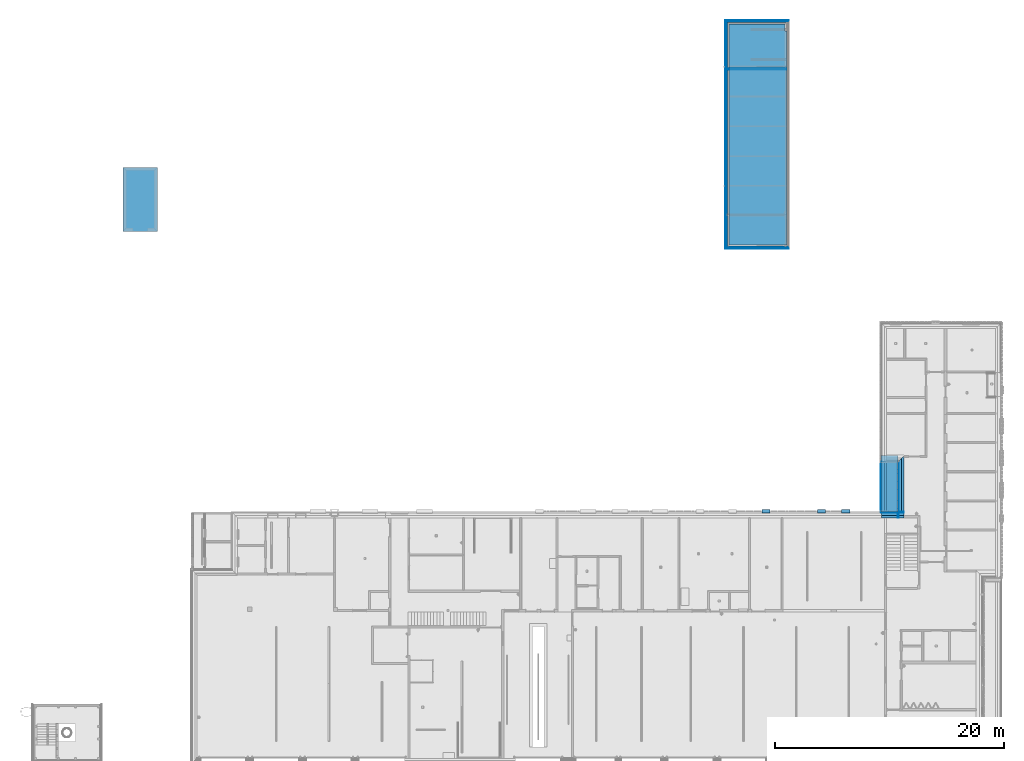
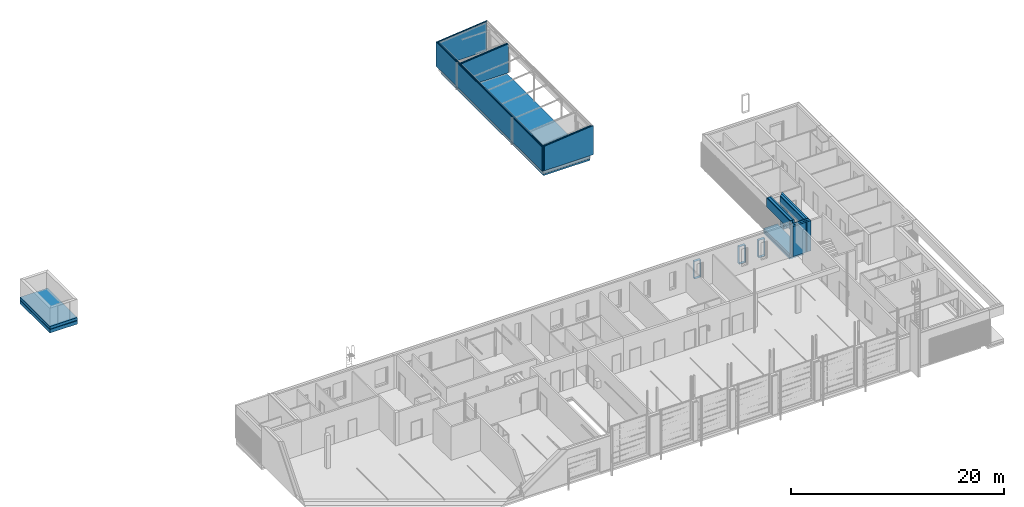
# One storey, part 33 of 112: 40 building element parts, 3 discrete accessories, 1 opening, 10 elements without a shape of their own.
"""IFC2X3 building model written with IfcOpenShell, lengths in millimetres."""

from ifc_helpers import new_model, entity, si_unit, converted_unit, derived_unit, money_unit, direction, frame, origin_with_axes, origin_2d_with_axis, place, context, subcontext, project, spatial, polyline, rectangle, outline, extrude, clip, halfspace, faceted_brep, source, transform, mapped, material, type_object, element, aggregate, save


model = new_model("IFC2X3")

# Units and contexts
model_context = context("Model", 3, precision=0.01, world=origin_with_axes(), true_north=direction((0.0, 1.0)))
body_context = subcontext(model_context, "Body", "Model", "MODEL_VIEW")
ifc_project = project(units=[si_unit("LENGTHUNIT", "METRE", prefix="MILLI"), si_unit("AREAUNIT", "SQUARE_METRE"), si_unit("VOLUMEUNIT", "CUBIC_METRE"), converted_unit("PLANEANGLEUNIT", "DEGREE", entity("IfcPlaneAngleMeasure", 0.0174532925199), si_unit("PLANEANGLEUNIT", "RADIAN"), dimensions=[0, 0, 0, 0, 0, 0, 0]), si_unit("SOLIDANGLEUNIT", "STERADIAN"), money_unit("EUR"), converted_unit("TIMEUNIT", "Year", entity("IfcTimeMeasure", 31556926.0), si_unit("TIMEUNIT", "SECOND"), dimensions=[0, 0, 1, 0, 0, 0, 0]), si_unit("MASSUNIT", "GRAM", prefix="KILO"), si_unit("THERMODYNAMICTEMPERATUREUNIT", "DEGREE_CELSIUS"), si_unit("LUMINOUSINTENSITYUNIT", "LUMEN"), si_unit("ENERGYUNIT", "JOULE", prefix="MEGA"), derived_unit("THERMALCONDUCTANCEUNIT", [(si_unit("POWERUNIT", "WATT"), 1), (si_unit("LENGTHUNIT", "METRE"), -1), (si_unit("THERMODYNAMICTEMPERATUREUNIT", "KELVIN"), -1)]), derived_unit("SPECIFICHEATCAPACITYUNIT", [(si_unit("ENERGYUNIT", "JOULE"), 1), (si_unit("MASSUNIT", "GRAM", prefix="KILO"), -1), (si_unit("THERMODYNAMICTEMPERATUREUNIT", "KELVIN"), -1)]), derived_unit("MASSDENSITYUNIT", [(si_unit("MASSUNIT", "GRAM", prefix="KILO"), 1), (si_unit("VOLUMEUNIT", "CUBIC_METRE"), -1)])], contexts=[model_context])

# Site, building, storey
site_placement = place(None, origin_with_axes())
site = spatial("IfcSite", under=ifc_project, at=site_placement, Name="Politse- ja Piirivalveameti ning Päästeameti ühishoone", CompositionType="ELEMENT")
building_placement = place(site_placement, origin_with_axes())
building = spatial("IfcBuilding", under=site, at=building_placement, Name="Politse- ja Piirivalveameti ning Päästeameti ühishoone", CompositionType="ELEMENT")
storey_placement = place(building_placement, origin_with_axes())
storey = spatial("IfcBuildingStorey", under=building, at=storey_placement, Name="Esimene korrus", CompositionType="ELEMENT", Elevation=0.0)

# Discrete accessories
ifc_material_1 = material(Name="SV-01_Krohv - Kips")
discrete_accessory_type = type_object("IfcDiscreteAccessoryType", Name="Architrave 01 23")
shared_shape = source(origin_with_axes(), body_context, "Body", "Brep", [
    faceted_brep([(350.0, 0.0, -10.0), (350.0, -300.182356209, -10.0), (-350.0, -300.182356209, -10.0), (-350.0, 0.0, -10.0), (340.0, 0.0, 0.0), (340.0, -300.182356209, 0.0), (-340.0, -300.182356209, 0.0), (-340.0, 0.0, 0.0)], [[[0, 1, 2, 3]], [[4, 5, 1, 0]], [[1, 5, 6, 2]], [[3, 2, 6, 7]], [[0, 3, 7, 4]], [[7, 6, 5, 4]]]),
    faceted_brep([(-350.0, 0.0, -10.0), (-350.0, -300.182356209, -10.0), (-350.0, -300.182356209, 1990.0), (-350.0, 0.0, 1990.0), (-340.0, 0.0, 0.0), (-340.0, -300.182356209, 0.0), (-340.0, -300.182356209, 1980.0), (-340.0, 0.0, 1980.0)], [[[0, 1, 2, 3]], [[4, 5, 1, 0]], [[1, 5, 6, 2]], [[3, 2, 6, 7]], [[0, 3, 7, 4]], [[7, 6, 5, 4]]]),
    faceted_brep([(-350.0, 0.0, 1990.0), (-350.0, -300.182356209, 1990.0), (350.0, -300.182356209, 1990.0), (350.0, 0.0, 1990.0), (-340.0, 0.0, 1980.0), (-340.0, -300.182356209, 1980.0), (340.0, -300.182356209, 1980.0), (340.0, 0.0, 1980.0)], [[[0, 1, 2, 3]], [[4, 5, 1, 0]], [[1, 5, 6, 2]], [[3, 2, 6, 7]], [[0, 3, 7, 4]], [[7, 6, 5, 4]]]),
    faceted_brep([(350.0, 0.0, 1990.0), (350.0, -300.182356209, 1990.0), (350.0, -300.182356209, -10.0), (350.0, 0.0, -10.0), (340.0, 0.0, 1980.0), (340.0, -300.182356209, 1980.0), (340.0, -300.182356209, 0.0), (340.0, 0.0, 0.0)], [[[0, 1, 2, 3]], [[4, 5, 1, 0]], [[1, 5, 6, 2]], [[3, 2, 6, 7]], [[0, 3, 7, 4]], [[7, 6, 5, 4]]]),
])
for number, where, z_axis, x_axis, name in (
    (1, (56584.544884, 21429.9520832, 810.0), (0.0, 0.0, 1.0), (-1.0, 0.0, 0.0), "AKNARAAM 01"),
    (2, (54484.544884, 21429.9520832, 810.0), (0.0, 0.0, 1.0), (-1.0, 0.0, 0.0), "AKNARAAM 01"),
    (3, (49633.8537217, 21429.9520832, 810.0), (0.0, 0.0, 1.0), (-1.0, 0.0, 0.0), "AKNARAAM 01"),
):
    element("IfcDiscreteAccessory", number, at=place(storey_placement, frame(where, z_axis=z_axis, x_axis=x_axis)), inside=storey, type_object=discrete_accessory_type, material=ifc_material_1, Name=name, context=body_context, shape_type="MappedRepresentation", body=[
        mapped(shared_shape, transform((0.0, 0.0, 0.0))),
    ])

# Wall, opening, building element parts
wall_type_1 = type_object("IfcWallType", Name="VS-04_välissein paneel200 + fassaadikassett 520", PredefinedType="NOTDEFINED")
wall_1_placement = place(storey_placement, frame((61660.5519118, 26419.9520832, 0.0), z_axis=(0.0, 0.0, 1.0), x_axis=(0.0, -1.0, 0.0)))
wall_1 = element("IfcWall", 4, at=wall_1_placement, inside=storey, type_object=wall_type_1, Name="VS-04")
opening_placement = place(wall_1_placement, frame((2720.16441569, 0.0, 0.0), z_axis=(0.0, 0.0, 1.0), x_axis=(1.0, 0.0, 0.0)))
element("IfcOpeningElement", 5, at=opening_placement, cuts=wall_1, Name="VU-03", context=body_context, shape_type="SweptSolid", body=[
    extrude(rectangle(XDim=3200.0, YDim=2600.0, at=origin_2d_with_axis()), frame((0.0, -450.0, 1300.0), z_axis=(0.0, -1.0, 0.0), x_axis=(-1.0, 0.0, 0.0)), (0.0, 0.0, -1.0), 970.0),
    extrude(rectangle(XDim=3200.0, YDim=2600.0, at=origin_2d_with_axis()), frame((0.0, -450.0, 1300.0), z_axis=(0.0, 1.0, 0.0), x_axis=(-1.0, 0.0, 0.0)), (0.0, 0.0, -1.0), 590.0),
    extrude(rectangle(XDim=3274.0, YDim=2637.0, at=origin_2d_with_axis()), frame((0.0, 0.0, 1318.5), z_axis=(0.0, -1.0, 0.0), x_axis=(-1.0, 0.0, 0.0)), (0.0, 0.0, -1.0), 590.0),
    extrude(rectangle(XDim=3274.0, YDim=2637.0, at=origin_2d_with_axis()), frame((0.0, -520.0, 1318.5), z_axis=(0.0, 1.0, 0.0), x_axis=(-1.0, 0.0, 0.0)), (0.0, 0.0, -1.0), 590.0),
])
ifc_material_2 = material(Name="KON-04_Betoon - Konstuktsioon")
building_element_part_1_placement = place(wall_1_placement, origin_with_axes())
building_element_part_1 = element("IfcBuildingElementPart", 6, at=building_element_part_1_placement, material=ifc_material_2, Name="KON-04_Betoon - Konstuktsioon", context=body_context, shape_type="SweptSolid", body=[
    extrude(outline(polyline([(200.0, -200.0), (5420.0, -200.0), (5420.0, 0.0), (0.0, 0.0), (200.0, -200.0)])), origin_with_axes(), (0.0, 0.0, 1.0), 3460.0),
])
ifc_material_3 = material(Name="SOJ-06_Soojustus - Plastik Kõva")
building_element_part_2_placement = place(wall_1_placement, origin_with_axes())
building_element_part_2 = element("IfcBuildingElementPart", 7, at=building_element_part_2_placement, material=ifc_material_3, Name="SOJ-06_Soojustus - Plastik Kõva", context=body_context, shape_type="SweptSolid", body=[
    extrude(outline(polyline([(450.0, -450.0), (5420.0, -450.0), (5420.0, -200.0), (200.0, -200.0), (450.0, -450.0)])), origin_with_axes(), (0.0, 0.0, 1.0), 3460.0),
])
ifc_material_4 = material(Name="Õhkvahe - Raam")
building_element_part_3_placement = place(wall_1_placement, origin_with_axes())
building_element_part_3 = element("IfcBuildingElementPart", 8, at=building_element_part_3_placement, material=ifc_material_4, Name="Õhkvahe - Raam", context=body_context, shape_type="SweptSolid", body=[
    extrude(outline(polyline([(480.0, -480.0), (5420.0, -480.0), (5420.0, -450.0), (450.0, -450.0), (480.0, -480.0)])), origin_with_axes(), (0.0, 0.0, 1.0), 3460.0),
])
ifc_material_5 = material(Name="GENEERILINE - VÄLINE VOODER")
building_element_part_4_placement = place(wall_1_placement, origin_with_axes())
building_element_part_4 = element("IfcBuildingElementPart", 9, at=building_element_part_4_placement, material=ifc_material_5, Name="GENEERILINE - VÄLINE VOODER", context=body_context, shape_type="SweptSolid", body=[
    extrude(outline(polyline([(520.0, -520.0), (5420.0, -520.0), (5420.0, -480.0), (480.0, -480.0), (520.0, -520.0)])), origin_with_axes(), (0.0, 0.0, 1.0), 3460.0),
])
aggregate(wall_1, [building_element_part_1, building_element_part_2, building_element_part_3, building_element_part_4])

# Slab, building element parts
slab_type_1 = type_object("IfcSlabType", Name="PP-06_sissepääsu esine terrass 600", PredefinedType="NOTDEFINED")
slab_1_placement = place(storey_placement, frame((59650.5519118, 21519.9520832, 0.0), z_axis=(0.0, 0.0, 1.0), x_axis=(1.0, 0.0, 0.0)))
slab_1 = element("IfcSlab", 10, at=slab_1_placement, inside=storey, type_object=slab_type_1, Name="PP-06", PredefinedType="NOTDEFINED")
ifc_material_6 = material(Name="VKK-03_Kruus")
building_element_part_5_placement = place(slab_1_placement, origin_with_axes())
building_element_part_5 = element("IfcBuildingElementPart", 11, at=building_element_part_5_placement, material=ifc_material_6, Name="VKK-03_Kruus", context=body_context, shape_type="SweptSolid", body=[
    extrude(outline(polyline([(0.0, 0.0), (1490.0, 0.0), (1490.0, 4900.0), (0.0, 4900.0), (0.0, 0.0)])), frame((0.0, 0.0, -600.0), z_axis=(0.0, 0.0, 1.0), x_axis=(1.0, 0.0, 0.0)), (0.0, 0.0, 1.0), 200.0),
])
ifc_material_7 = material(Name="SOJ-02_Soojustus - Fiiber Kõva")
building_element_part_6_placement = place(slab_1_placement, origin_with_axes())
building_element_part_6 = element("IfcBuildingElementPart", 12, at=building_element_part_6_placement, material=ifc_material_7, Name="SOJ-02_Soojustus - Fiiber Kõva", context=body_context, shape_type="SweptSolid", body=[
    extrude(outline(polyline([(0.0, 0.0), (1490.0, 0.0), (1490.0, 4900.0), (0.0, 4900.0), (0.0, 0.0)])), frame((0.0, 0.0, -400.0), z_axis=(0.0, 0.0, 1.0), x_axis=(1.0, 0.0, 0.0)), (0.0, 0.0, 1.0), 150.0),
])
ifc_material_8 = material(Name="VKR-01_Betoon")
building_element_part_7_placement = place(slab_1_placement, origin_with_axes())
building_element_part_7 = element("IfcBuildingElementPart", 13, at=building_element_part_7_placement, material=ifc_material_8, Name="VKR-01_Betoon", context=body_context, shape_type="SweptSolid", body=[
    extrude(outline(polyline([(0.0, 0.0), (1490.0, 0.0), (1490.0, 4900.0), (0.0, 4900.0), (0.0, 0.0)])), frame((0.0, 0.0, -250.0), z_axis=(0.0, 0.0, 1.0), x_axis=(1.0, 0.0, 0.0)), (0.0, 0.0, 1.0), 250.0),
])
aggregate(slab_1, [building_element_part_5, building_element_part_6, building_element_part_7])

# Wall, building element parts
wall_type_2 = type_object("IfcWallType", Name="VS-01_välissein 510", PredefinedType="NOTDEFINED")
wall_2_placement = place(storey_placement, frame((60160.5519118, 25899.9520832, 2800.0), z_axis=(0.0, 0.0, 1.0), x_axis=(0.0, -1.0, 0.0)))
wall_2 = element("IfcWall", 14, at=wall_2_placement, inside=storey, type_object=wall_type_2, Name="VS-01")
building_element_part_8_placement = place(wall_2_placement, origin_with_axes())
building_element_part_8 = element("IfcBuildingElementPart", 15, at=building_element_part_8_placement, material=ifc_material_2, Name="KON-04_Betoon - Konstuktsioon", context=body_context, shape_type="SweptSolid", body=[
    extrude(outline(polyline([(0.0, -180.0), (4380.0, -180.0), (4380.0, 0.0), (0.0, 0.0), (0.0, -180.0)])), origin_with_axes(), (0.0, 0.0, 1.0), 1000.0),
])
building_element_part_9_placement = place(wall_2_placement, origin_with_axes())
building_element_part_9 = element("IfcBuildingElementPart", 16, at=building_element_part_9_placement, material=ifc_material_3, Name="SOJ-06_Soojustus - Plastik Kõva", context=body_context, shape_type="SweptSolid", body=[
    extrude(outline(polyline([(0.0, -430.0), (4380.0, -430.0), (4380.0, -180.0), (0.0, -180.0), (0.0, -430.0)])), origin_with_axes(), (0.0, 0.0, 1.0), 1000.0),
])
building_element_part_10_placement = place(wall_2_placement, origin_with_axes())
building_element_part_10 = element("IfcBuildingElementPart", 17, at=building_element_part_10_placement, material=ifc_material_2, Name="KON-04_Betoon - Konstuktsioon", context=body_context, shape_type="SweptSolid", body=[
    extrude(outline(polyline([(0.0, -510.0), (4380.0, -510.0), (4380.0, -430.0), (0.0, -430.0), (0.0, -510.0)])), origin_with_axes(), (0.0, 0.0, 1.0), 1000.0),
])
aggregate(wall_2, [building_element_part_8, building_element_part_9, building_element_part_10])

wall_3_placement = place(storey_placement, frame((59700.5519118, 20999.9520832, 0.0), z_axis=(0.0, 0.0, 1.0), x_axis=(1.0, 0.0, 0.0)))
wall_3 = element("IfcWall", 18, at=wall_3_placement, inside=storey, type_object=wall_type_1, Name="VS-04")
building_element_part_11_placement = place(wall_3_placement, origin_with_axes())
building_element_part_11 = element("IfcBuildingElementPart", 19, at=building_element_part_11_placement, material=ifc_material_2, Name="KON-04_Betoon - Konstuktsioon", context=body_context, shape_type="SweptSolid", body=[
    extrude(outline(polyline([(0.0, 0.0), (1960.0, 0.0), (1960.0, 200.0), (0.0, 200.0), (0.0, 0.0)])), origin_with_axes(), (0.0, 0.0, 1.0), 3460.0),
])
building_element_part_12_placement = place(wall_3_placement, origin_with_axes())
building_element_part_12 = element("IfcBuildingElementPart", 20, at=building_element_part_12_placement, material=ifc_material_3, Name="SOJ-06_Soojustus - Plastik Kõva", context=body_context, shape_type="SweptSolid", body=[
    extrude(outline(polyline([(0.0, 200.0), (1960.0, 200.0), (1960.0, 450.0), (0.0, 450.0), (0.0, 200.0)])), origin_with_axes(), (0.0, 0.0, 1.0), 3460.0),
])
building_element_part_13_placement = place(wall_3_placement, origin_with_axes())
building_element_part_13 = element("IfcBuildingElementPart", 21, at=building_element_part_13_placement, material=ifc_material_4, Name="Õhkvahe - Raam", context=body_context, shape_type="SweptSolid", body=[
    extrude(outline(polyline([(0.0, 450.0), (1960.0, 450.0), (1960.0, 480.0), (0.0, 480.0), (0.0, 450.0)])), origin_with_axes(), (0.0, 0.0, 1.0), 3460.0),
])
building_element_part_14_placement = place(wall_3_placement, origin_with_axes())
building_element_part_14 = element("IfcBuildingElementPart", 22, at=building_element_part_14_placement, material=ifc_material_5, Name="GENEERILINE - VÄLINE VOODER", context=body_context, shape_type="SweptSolid", body=[
    extrude(outline(polyline([(0.0, 480.0), (1960.0, 480.0), (1960.0, 520.0), (0.0, 520.0), (0.0, 480.0)])), origin_with_axes(), (0.0, 0.0, 1.0), 3460.0),
])
aggregate(wall_3, [building_element_part_11, building_element_part_12, building_element_part_13, building_element_part_14])

wall_type_3 = type_object("IfcWallType", Name="VS-41_Välissein PPA varjualune 225", PredefinedType="NOTDEFINED")
wall_4_placement = place(storey_placement, frame((46291.8237405, 44474.8510263, 300.0), z_axis=(0.0, 0.0, 1.0), x_axis=(0.0, 1.0, 0.0)))
wall_4 = element("IfcWall", 23, at=wall_4_placement, inside=storey, type_object=wall_type_3, Name="VS-41")
ifc_material_9 = material(Name="Õhkvahe")
building_element_part_15_placement = place(wall_4_placement, origin_with_axes())
building_element_part_15 = element("IfcBuildingElementPart", 24, at=building_element_part_15_placement, material=ifc_material_9, Name="Õhkvahe", context=body_context, shape_type="Clipping", body=[
    clip(extrude(outline(polyline([(0.0, 0.0), (19725.0, 0.0), (19825.0, 100.0), (0.0, 100.0), (0.0, 0.0)])), origin_with_axes(), (0.0, 0.0, 1.0), 2892.55172062), halfspace(frame((0.0, 277.161360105, 2776.79873199), z_axis=(0.0, -0.0993197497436, -0.995055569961), x_axis=(0.0, 0.995055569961, -0.0993197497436)), True)),
])
ifc_material_10 = material(Name="Vineer")
building_element_part_16_placement = place(wall_4_placement, origin_with_axes())
building_element_part_16 = element("IfcBuildingElementPart", 25, at=building_element_part_16_placement, material=ifc_material_10, Name="Vineer", context=body_context, shape_type="Clipping", body=[
    clip(extrude(outline(polyline([(0.0, 100.0), (19825.0, 100.0), (19840.0, 115.0), (0.0, 115.0), (0.0, 100.0)])), origin_with_axes(), (0.0, 0.0, 1.0), 2892.55172062), halfspace(frame((0.0, 277.161360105, 2776.79873199), z_axis=(0.0, -0.0993197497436, -0.995055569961), x_axis=(0.0, 0.995055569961, -0.0993197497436)), True)),
])
building_element_part_17_placement = place(wall_4_placement, origin_with_axes())
building_element_part_17 = element("IfcBuildingElementPart", 26, at=building_element_part_17_placement, material=ifc_material_9, Name="Õhkvahe", context=body_context, shape_type="Clipping", body=[
    clip(extrude(outline(polyline([(0.0, 115.0), (19840.0, 115.0), (19855.0, 130.0), (0.0, 130.0), (0.0, 115.0)])), origin_with_axes(), (0.0, 0.0, 1.0), 2892.55172062), halfspace(frame((0.0, 277.161360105, 2776.79873199), z_axis=(0.0, -0.0993197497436, -0.995055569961), x_axis=(0.0, 0.995055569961, -0.0993197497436)), True)),
])
building_element_part_18_placement = place(wall_4_placement, origin_with_axes())
building_element_part_18 = element("IfcBuildingElementPart", 27, at=building_element_part_18_placement, material=ifc_material_9, Name="Õhkvahe", context=body_context, shape_type="Clipping", body=[
    clip(extrude(outline(polyline([(0.0, 130.0), (19855.0, 130.0), (19905.0, 180.0), (0.0, 180.0), (0.0, 130.0)])), origin_with_axes(), (0.0, 0.0, 1.0), 2892.55172062), halfspace(frame((0.0, 277.161360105, 2776.79873199), z_axis=(0.0, -0.0993197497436, -0.995055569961), x_axis=(0.0, 0.995055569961, -0.0993197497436)), True)),
])
building_element_part_19_placement = place(wall_4_placement, origin_with_axes())
building_element_part_19 = element("IfcBuildingElementPart", 28, at=building_element_part_19_placement, material=ifc_material_5, Name="GENEERILINE - VÄLINE VOODER", context=body_context, shape_type="Clipping", body=[
    clip(extrude(outline(polyline([(0.0, 180.0), (19905.0, 180.0), (19950.0, 225.0), (0.0, 225.0), (0.0, 180.0)])), origin_with_axes(), (0.0, 0.0, 1.0), 2892.55172062), halfspace(frame((0.0, 277.161360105, 2776.79873199), z_axis=(0.0, -0.0993197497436, -0.995055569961), x_axis=(0.0, 0.995055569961, -0.0993197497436)), True)),
])
aggregate(wall_4, [building_element_part_15, building_element_part_16, building_element_part_17, building_element_part_18, building_element_part_19])

# Slab, building element parts
slab_type_2 = type_object("IfcSlabType", Name="PP-30_Garaazi põrand pinnasel 500", PredefinedType="NOTDEFINED")
slab_2_placement = place(storey_placement, frame((46397.4298587, 64092.8324949, 0.0), z_axis=(0.0, 0.0, 1.0), x_axis=(1.0, 0.0, 0.0)))
slab_2 = element("IfcSlab", 29, at=slab_2_placement, inside=storey, type_object=slab_type_2, Name="PP-41", PredefinedType="NOTDEFINED")
building_element_part_20_placement = place(slab_2_placement, origin_with_axes())
building_element_part_20 = element("IfcBuildingElementPart", 30, at=building_element_part_20_placement, material=ifc_material_6, Name="VKK-03_Kruus", context=body_context, shape_type="SweptSolid", body=[
    extrude(outline(polyline([(0.0, 0.0), (4.3938818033, -19282.9814686), (5044.3938818, -19282.9814621), (5044.3938818, -642.981474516), (4884.3938818, -642.981474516), (4884.39364011, -0.0126705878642), (0.0, 0.0)])), frame((0.0, 0.0, -500.0), z_axis=(0.0, 0.0, 1.0), x_axis=(1.0, 0.0, 0.0)), (0.0, 0.0, 1.0), 200.0),
])
building_element_part_21_placement = place(slab_2_placement, origin_with_axes())
building_element_part_21 = element("IfcBuildingElementPart", 31, at=building_element_part_21_placement, material=ifc_material_7, Name="SOJ-02_Soojustus - Fiiber Kõva", context=body_context, shape_type="SweptSolid", body=[
    extrude(outline(polyline([(0.0, 0.0), (4.3938818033, -19282.9814686), (5044.3938818, -19282.9814621), (5044.3938818, -642.981474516), (4884.3938818, -642.981474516), (4884.39364011, -0.0126705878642), (0.0, 0.0)])), frame((0.0, 0.0, -300.0), z_axis=(0.0, 0.0, 1.0), x_axis=(1.0, 0.0, 0.0)), (0.0, 0.0, 1.0), 100.0),
])
ifc_material_11 = material(Name="ET-02_Raudbetoon - Toode")
building_element_part_22_placement = place(slab_2_placement, origin_with_axes())
building_element_part_22 = element("IfcBuildingElementPart", 32, at=building_element_part_22_placement, material=ifc_material_11, Name="ET-02_Raudbetoon - Toode", context=body_context, shape_type="SweptSolid", body=[
    extrude(outline(polyline([(0.0, 0.0), (4.3938818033, -19282.9814686), (5044.3938818, -19282.9814621), (5044.3938818, -642.981474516), (4884.3938818, -642.981474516), (4884.39364011, -0.0126705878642), (0.0, 0.0)])), frame((0.0, 0.0, -200.0), z_axis=(0.0, 0.0, 1.0), x_axis=(1.0, 0.0, 0.0)), (0.0, 0.0, 1.0), 200.0),
])
aggregate(slab_2, [building_element_part_20, building_element_part_21, building_element_part_22])

# Wall, building element parts
wall_5_placement = place(storey_placement, frame((51391.8237405, 64199.8510263, 300.0), z_axis=(0.0, 0.0, 1.0), x_axis=(-1.0, 0.0, 0.0)))
wall_5 = element("IfcWall", 33, at=wall_5_placement, inside=storey, type_object=wall_type_3, Name="VS-41")
building_element_part_23_placement = place(wall_5_placement, origin_with_axes())
building_element_part_23 = element("IfcBuildingElementPart", 34, at=building_element_part_23_placement, material=ifc_material_9, Name="Õhkvahe", context=body_context, shape_type="Clipping", body=[
    clip(clip(extrude(outline(polyline([(-100.0, -100.0), (5200.0, -100.0), (5100.0, 0.0), (0.0, 0.0), (-100.0, -100.0)])), origin_with_axes(), (0.0, 0.0, 1.0), 3500.0), halfspace(frame((327.469865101, 0.0, 3280.82495279), z_axis=(-0.0993197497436, 0.0, -0.995055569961), x_axis=(0.0, 1.0, 0.0)), True)), halfspace(frame((702.013061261, 0.0, 7033.26386339), z_axis=(-0.0993197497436, 0.0, -0.995055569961), x_axis=(0.0, 1.0, 0.0)), True)),
])
building_element_part_24_placement = place(wall_5_placement, origin_with_axes())
building_element_part_24 = element("IfcBuildingElementPart", 35, at=building_element_part_24_placement, material=ifc_material_10, Name="Vineer", context=body_context, shape_type="Clipping", body=[
    clip(clip(extrude(outline(polyline([(-115.0, -115.0), (5215.0, -115.0), (5200.0, -100.0), (-100.0, -100.0), (-115.0, -115.0)])), origin_with_axes(), (0.0, 0.0, 1.0), 3500.0), halfspace(frame((327.469865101, 0.0, 3280.82495279), z_axis=(-0.0993197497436, 0.0, -0.995055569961), x_axis=(0.0, 1.0, 0.0)), True)), halfspace(frame((702.013061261, 0.0, 7033.26386339), z_axis=(-0.0993197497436, 0.0, -0.995055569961), x_axis=(0.0, 1.0, 0.0)), True)),
])
building_element_part_25_placement = place(wall_5_placement, origin_with_axes())
building_element_part_25 = element("IfcBuildingElementPart", 36, at=building_element_part_25_placement, material=ifc_material_9, Name="Õhkvahe", context=body_context, shape_type="Clipping", body=[
    clip(clip(extrude(outline(polyline([(-130.0, -130.0), (5230.0, -130.0), (5215.0, -115.0), (-115.0, -115.0), (-130.0, -130.0)])), origin_with_axes(), (0.0, 0.0, 1.0), 3500.0), halfspace(frame((327.469865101, 0.0, 3280.82495279), z_axis=(-0.0993197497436, 0.0, -0.995055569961), x_axis=(0.0, 1.0, 0.0)), True)), halfspace(frame((702.013061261, 0.0, 7033.26386339), z_axis=(-0.0993197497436, 0.0, -0.995055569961), x_axis=(0.0, 1.0, 0.0)), True)),
])
building_element_part_26_placement = place(wall_5_placement, origin_with_axes())
building_element_part_26 = element("IfcBuildingElementPart", 37, at=building_element_part_26_placement, material=ifc_material_9, Name="Õhkvahe", context=body_context, shape_type="Clipping", body=[
    clip(clip(extrude(outline(polyline([(-180.0, -180.0), (5280.0, -180.0), (5230.0, -130.0), (-130.0, -130.0), (-180.0, -180.0)])), origin_with_axes(), (0.0, 0.0, 1.0), 3500.0), halfspace(frame((327.469865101, 0.0, 3280.82495279), z_axis=(-0.0993197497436, 0.0, -0.995055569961), x_axis=(0.0, 1.0, 0.0)), True)), halfspace(frame((702.013061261, 0.0, 7033.26386339), z_axis=(-0.0993197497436, 0.0, -0.995055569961), x_axis=(0.0, 1.0, 0.0)), True)),
])
building_element_part_27_placement = place(wall_5_placement, origin_with_axes())
building_element_part_27 = element("IfcBuildingElementPart", 38, at=building_element_part_27_placement, material=ifc_material_5, Name="GENEERILINE - VÄLINE VOODER", context=body_context, shape_type="Clipping", body=[
    clip(clip(extrude(outline(polyline([(-225.0, -225.0), (5325.0, -225.0), (5280.0, -180.0), (-180.0, -180.0), (-225.0, -225.0)])), origin_with_axes(), (0.0, 0.0, 1.0), 3500.0), halfspace(frame((327.469865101, 0.0, 3280.82495279), z_axis=(-0.0993197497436, 0.0, -0.995055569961), x_axis=(0.0, 1.0, 0.0)), True)), halfspace(frame((702.013061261, 0.0, 7033.26386339), z_axis=(-0.0993197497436, 0.0, -0.995055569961), x_axis=(0.0, 1.0, 0.0)), True)),
])
aggregate(wall_5, [building_element_part_23, building_element_part_24, building_element_part_25, building_element_part_26, building_element_part_27])

wall_6_placement = place(storey_placement, frame((51391.8237405, 44699.8510263, 300.0), z_axis=(0.0, 0.0, 1.0), x_axis=(-1.0, 0.0, 0.0)))
wall_6 = element("IfcWall", 39, at=wall_6_placement, inside=storey, type_object=wall_type_3, Name="VS-41")
building_element_part_28_placement = place(wall_6_placement, origin_with_axes())
building_element_part_28 = element("IfcBuildingElementPart", 40, at=building_element_part_28_placement, material=ifc_material_9, Name="Õhkvahe", context=body_context, shape_type="Clipping", body=[
    clip(clip(extrude(outline(polyline([(0.0, 0.0), (5100.0, 0.0), (5100.0, 100.0), (-100.0, 100.0), (0.0, 0.0)])), origin_with_axes(), (0.0, 0.0, 1.0), 13500.0), halfspace(frame((327.469865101, 0.0, 3280.82495279), z_axis=(-0.0993197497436, 0.0, -0.995055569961), x_axis=(0.0, 1.0, 0.0)), True)), halfspace(frame((702.013061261, 0.0, 7033.26386339), z_axis=(-0.0993197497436, 0.0, -0.995055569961), x_axis=(0.0, 1.0, 0.0)), True)),
])
building_element_part_29_placement = place(wall_6_placement, origin_with_axes())
building_element_part_29 = element("IfcBuildingElementPart", 41, at=building_element_part_29_placement, material=ifc_material_10, Name="Vineer", context=body_context, shape_type="Clipping", body=[
    clip(clip(extrude(outline(polyline([(-100.0, 100.0), (5100.0, 100.0), (5100.0, 115.0), (-115.0, 115.0), (-100.0, 100.0)])), origin_with_axes(), (0.0, 0.0, 1.0), 13500.0), halfspace(frame((327.469865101, 0.0, 3280.82495279), z_axis=(-0.0993197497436, 0.0, -0.995055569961), x_axis=(0.0, 1.0, 0.0)), True)), halfspace(frame((702.013061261, 0.0, 7033.26386339), z_axis=(-0.0993197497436, 0.0, -0.995055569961), x_axis=(0.0, 1.0, 0.0)), True)),
])
building_element_part_30_placement = place(wall_6_placement, origin_with_axes())
building_element_part_30 = element("IfcBuildingElementPart", 42, at=building_element_part_30_placement, material=ifc_material_9, Name="Õhkvahe", context=body_context, shape_type="Clipping", body=[
    clip(clip(extrude(outline(polyline([(-115.0, 115.0), (5100.0, 115.0), (5100.0, 130.0), (-130.0, 130.0), (-115.0, 115.0)])), origin_with_axes(), (0.0, 0.0, 1.0), 13500.0), halfspace(frame((327.469865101, 0.0, 3280.82495279), z_axis=(-0.0993197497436, 0.0, -0.995055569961), x_axis=(0.0, 1.0, 0.0)), True)), halfspace(frame((702.013061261, 0.0, 7033.26386339), z_axis=(-0.0993197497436, 0.0, -0.995055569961), x_axis=(0.0, 1.0, 0.0)), True)),
])
building_element_part_31_placement = place(wall_6_placement, origin_with_axes())
building_element_part_31 = element("IfcBuildingElementPart", 43, at=building_element_part_31_placement, material=ifc_material_9, Name="Õhkvahe", context=body_context, shape_type="Clipping", body=[
    clip(clip(extrude(outline(polyline([(-130.0, 130.0), (5100.0, 130.0), (5100.0, 180.0), (-180.0, 180.0), (-130.0, 130.0)])), origin_with_axes(), (0.0, 0.0, 1.0), 13500.0), halfspace(frame((327.469865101, 0.0, 3280.82495279), z_axis=(-0.0993197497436, 0.0, -0.995055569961), x_axis=(0.0, 1.0, 0.0)), True)), halfspace(frame((702.013061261, 0.0, 7033.26386339), z_axis=(-0.0993197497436, 0.0, -0.995055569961), x_axis=(0.0, 1.0, 0.0)), True)),
])
building_element_part_32_placement = place(wall_6_placement, origin_with_axes())
building_element_part_32 = element("IfcBuildingElementPart", 44, at=building_element_part_32_placement, material=ifc_material_5, Name="GENEERILINE - VÄLINE VOODER", context=body_context, shape_type="Clipping", body=[
    clip(clip(extrude(outline(polyline([(-180.0, 180.0), (5100.0, 180.0), (5100.0, 225.0), (-225.0, 225.0), (-180.0, 180.0)])), origin_with_axes(), (0.0, 0.0, 1.0), 13500.0), halfspace(frame((327.469865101, 0.0, 3280.82495279), z_axis=(-0.0993197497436, 0.0, -0.995055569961), x_axis=(0.0, 1.0, 0.0)), True)), halfspace(frame((702.013061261, 0.0, 7033.26386339), z_axis=(-0.0993197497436, 0.0, -0.995055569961), x_axis=(0.0, 1.0, 0.0)), True)),
])
aggregate(wall_6, [building_element_part_28, building_element_part_29, building_element_part_30, building_element_part_31, building_element_part_32])

wall_7_placement = place(storey_placement, frame((51391.8237405, 60299.851074, 300.0), z_axis=(0.0, 0.0, 1.0), x_axis=(-1.0, 0.0, 0.0)))
wall_7 = element("IfcWall", 45, at=wall_7_placement, inside=storey, type_object=wall_type_3, Name="VS-41")
building_element_part_33_placement = place(wall_7_placement, origin_with_axes())
building_element_part_33 = element("IfcBuildingElementPart", 46, at=building_element_part_33_placement, material=ifc_material_9, Name="Õhkvahe", context=body_context, shape_type="Clipping", body=[
    clip(clip(extrude(outline(polyline([(-1.70530256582e-10, 0.0), (5100.0, 0.0), (5100.0, 100.0), (-1.70530256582e-10, 100.0), (-1.70530256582e-10, 0.0)])), origin_with_axes(), (0.0, 0.0, 1.0), 3500.0), halfspace(frame((327.469865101, 0.0, 3280.82495279), z_axis=(-0.0993197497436, 0.0, -0.995055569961), x_axis=(0.0, 1.0, 0.0)), True)), halfspace(frame((702.013061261, 0.0, 7033.26386339), z_axis=(-0.0993197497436, 0.0, -0.995055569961), x_axis=(0.0, 1.0, 0.0)), True)),
])
building_element_part_34_placement = place(wall_7_placement, origin_with_axes())
building_element_part_34 = element("IfcBuildingElementPart", 47, at=building_element_part_34_placement, material=ifc_material_10, Name="Vineer", context=body_context, shape_type="Clipping", body=[
    clip(clip(extrude(outline(polyline([(-1.70530256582e-10, 100.0), (5100.0, 100.0), (5100.0, 115.0), (-1.70530256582e-10, 115.0), (-1.70530256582e-10, 100.0)])), origin_with_axes(), (0.0, 0.0, 1.0), 3500.0), halfspace(frame((327.469865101, 0.0, 3280.82495279), z_axis=(-0.0993197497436, 0.0, -0.995055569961), x_axis=(0.0, 1.0, 0.0)), True)), halfspace(frame((702.013061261, 0.0, 7033.26386339), z_axis=(-0.0993197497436, 0.0, -0.995055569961), x_axis=(0.0, 1.0, 0.0)), True)),
])
building_element_part_35_placement = place(wall_7_placement, origin_with_axes())
building_element_part_35 = element("IfcBuildingElementPart", 48, at=building_element_part_35_placement, material=ifc_material_9, Name="Õhkvahe", context=body_context, shape_type="Clipping", body=[
    clip(clip(extrude(outline(polyline([(-1.70530256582e-10, 115.0), (5100.0, 115.0), (5100.0, 130.0), (-1.70530256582e-10, 130.0), (-1.70530256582e-10, 115.0)])), origin_with_axes(), (0.0, 0.0, 1.0), 3500.0), halfspace(frame((327.469865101, 0.0, 3280.82495279), z_axis=(-0.0993197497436, 0.0, -0.995055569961), x_axis=(0.0, 1.0, 0.0)), True)), halfspace(frame((702.013061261, 0.0, 7033.26386339), z_axis=(-0.0993197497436, 0.0, -0.995055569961), x_axis=(0.0, 1.0, 0.0)), True)),
])
building_element_part_36_placement = place(wall_7_placement, origin_with_axes())
building_element_part_36 = element("IfcBuildingElementPart", 49, at=building_element_part_36_placement, material=ifc_material_9, Name="Õhkvahe", context=body_context, shape_type="Clipping", body=[
    clip(clip(extrude(outline(polyline([(-1.70530256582e-10, 130.0), (5100.0, 130.0), (5100.0, 180.0), (-1.70530256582e-10, 180.0), (-1.70530256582e-10, 130.0)])), origin_with_axes(), (0.0, 0.0, 1.0), 3500.0), halfspace(frame((327.469865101, 0.0, 3280.82495279), z_axis=(-0.0993197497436, 0.0, -0.995055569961), x_axis=(0.0, 1.0, 0.0)), True)), halfspace(frame((702.013061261, 0.0, 7033.26386339), z_axis=(-0.0993197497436, 0.0, -0.995055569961), x_axis=(0.0, 1.0, 0.0)), True)),
])
building_element_part_37_placement = place(wall_7_placement, origin_with_axes())
building_element_part_37 = element("IfcBuildingElementPart", 50, at=building_element_part_37_placement, material=ifc_material_5, Name="GENEERILINE - VÄLINE VOODER", context=body_context, shape_type="Clipping", body=[
    clip(clip(extrude(outline(polyline([(-1.70530256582e-10, 180.0), (5100.0, 180.0), (5100.0, 225.0), (-1.70530256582e-10, 225.0), (-1.70530256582e-10, 180.0)])), origin_with_axes(), (0.0, 0.0, 1.0), 3500.0), halfspace(frame((327.469865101, 0.0, 3280.82495279), z_axis=(-0.0993197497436, 0.0, -0.995055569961), x_axis=(0.0, 1.0, 0.0)), True)), halfspace(frame((702.013061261, 0.0, 7033.26386339), z_axis=(-0.0993197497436, 0.0, -0.995055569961), x_axis=(0.0, 1.0, 0.0)), True)),
])
aggregate(wall_7, [building_element_part_33, building_element_part_34, building_element_part_35, building_element_part_36, building_element_part_37])

# Slab, building element parts
slab_type_3 = type_object("IfcSlabType", Name="PP-60_Põrand pinnasel lõhkeainehoidla 750", PredefinedType="NOTDEFINED")
slab_3_placement = place(storey_placement, frame((-6464.49139249, 45978.0648668, 0.0), z_axis=(0.0, 0.0, 1.0), x_axis=(1.0, 0.0, 0.0)))
slab_3 = element("IfcSlab", 51, at=slab_3_placement, inside=storey, type_object=slab_type_3, Name="PP-60", PredefinedType="NOTDEFINED")
building_element_part_38_placement = place(slab_3_placement, origin_with_axes())
building_element_part_38 = element("IfcBuildingElementPart", 52, at=building_element_part_38_placement, material=ifc_material_6, Name="VKK-03_Kruus", context=body_context, shape_type="SweptSolid", body=[
    extrude(outline(polyline([(0.0, 0.0), (3000.0, 0.0), (3000.0, 5600.0), (0.0, 5600.0), (0.0, 0.0)])), frame((0.0, 0.0, -750.0), z_axis=(0.0, 0.0, 1.0), x_axis=(1.0, 0.0, 0.0)), (0.0, 0.0, 1.0), 400.0),
])
ifc_material_12 = material(Name="VKK-02_Liiv")
building_element_part_39_placement = place(slab_3_placement, origin_with_axes())
building_element_part_39 = element("IfcBuildingElementPart", 53, at=building_element_part_39_placement, material=ifc_material_12, Name="VKK-02_Liiv", context=body_context, shape_type="SweptSolid", body=[
    extrude(outline(polyline([(0.0, 0.0), (3000.0, 0.0), (3000.0, 5600.0), (0.0, 5600.0), (0.0, 0.0)])), frame((0.0, 0.0, -350.0), z_axis=(0.0, 0.0, 1.0), x_axis=(1.0, 0.0, 0.0)), (0.0, 0.0, 1.0), 50.0),
])
building_element_part_40_placement = place(slab_3_placement, origin_with_axes())
building_element_part_40 = element("IfcBuildingElementPart", 54, at=building_element_part_40_placement, material=ifc_material_8, Name="VKR-01_Betoon", context=body_context, shape_type="SweptSolid", body=[
    extrude(outline(polyline([(0.0, 0.0), (3000.0, 0.0), (3000.0, 5600.0), (0.0, 5600.0), (0.0, 0.0)])), frame((0.0, 0.0, -300.0), z_axis=(0.0, 0.0, 1.0), x_axis=(1.0, 0.0, 0.0)), (0.0, 0.0, 1.0), 300.0),
])
aggregate(slab_3, [building_element_part_38, building_element_part_39, building_element_part_40])

save(model, "model.ifc")
